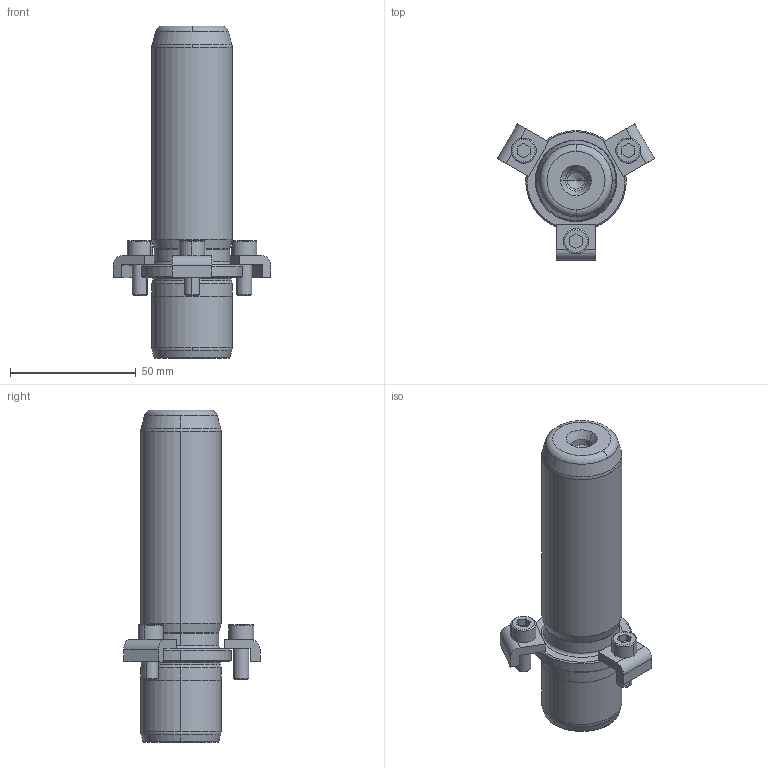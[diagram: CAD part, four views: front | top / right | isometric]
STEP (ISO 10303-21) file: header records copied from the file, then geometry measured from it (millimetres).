
FILE_DESCRIPTION((''),'2;1');
FILE_NAME('P21_032_100.stp','2008-12-23T10:32:26',(''),(''),'Mechanical Desktop 2009','Mechanical Desktop 2009',', , ');
FILE_SCHEMA(('CONFIG_CONTROL_DESIGN'));
Length unit declared in the file: millimetre
Products named in the file (2): Product; blmdl1
Assembly tree (1 placements, depth 2):
  Product
    blmdl1
Bounding box: 62.51 x 54.13 x 132 mm (x, y, z)
Volume: 109551.5 mm3; surface area: 21155.5 mm2
Topology: 7 solids, 7 shells, 163 faces, 399 edges, 257 vertices
Faces by surface type: plane 59, cylinder 44, cone 32, torus 14, bspline 14
Entity records: 5517 total; most frequent: CARTESIAN_POINT 1433, DIRECTION 908, ORIENTED_EDGE 790, EDGE_CURVE 395, AXIS2_PLACEMENT_3D 362, VERTEX_POINT 257, CIRCLE 211, VECTOR 184
